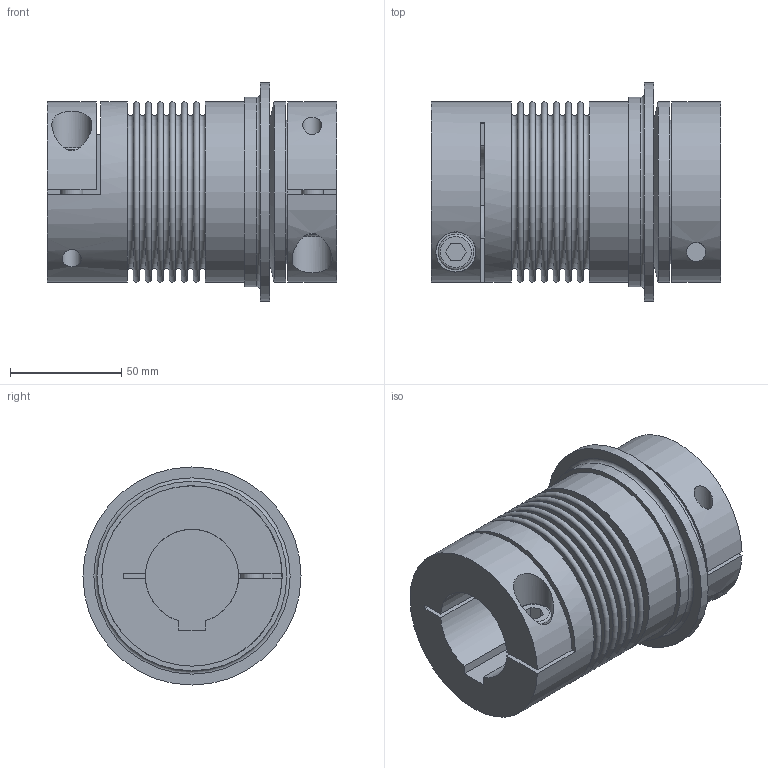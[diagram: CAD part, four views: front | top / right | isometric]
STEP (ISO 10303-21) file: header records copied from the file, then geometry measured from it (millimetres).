
FILE_DESCRIPTION(/* description */ ('STEP AP214'),/* implementation_level */ '2;1');
FILE_NAME(/* name */ 'C:\Diequa Files\DieQua Coupling\TB2\STP\TB2.150.130.F.#.#.stp',/* time_stamp */ '2019-04-26T10:40:54-05:00',/* author */ ('DiequaCAD'),/* organization */ (''),/* preprocessor_version */ 'ST-DEVELOPER v18',/* originating_system */ 'Autodesk Inventor 2020',/* authorisation */ ' ');
FILE_SCHEMA (('AUTOMOTIVE_DESIGN { 1 0 10303 214 3 1 1 }'));
Length unit declared in the file: millimetre
Products named in the file (1): TB2.150.130.F.#.#
Bounding box: 130 x 98 x 98 mm (x, y, z)
Volume: 539440.6 mm3; surface area: 91203 mm2
Topology: 1 solids, 1 shells, 98 faces, 232 edges, 164 vertices
Faces by surface type: plane 61, cylinder 20, torus 16, cone 1
Full cylindrical faces by diameter (mm): 8.5 x2, 10 x2, 11 x2, 16 x2, 18 x2, 65 x1, 81 x3, 85.2 x1, 98 x1
Entity records: 3121 total; most frequent: CARTESIAN_POINT 647, DIRECTION 547, ORIENTED_EDGE 464, EDGE_CURVE 232, AXIS2_PLACEMENT_3D 222, VERTEX_POINT 164, EDGE_LOOP 130, CIRCLE 123
